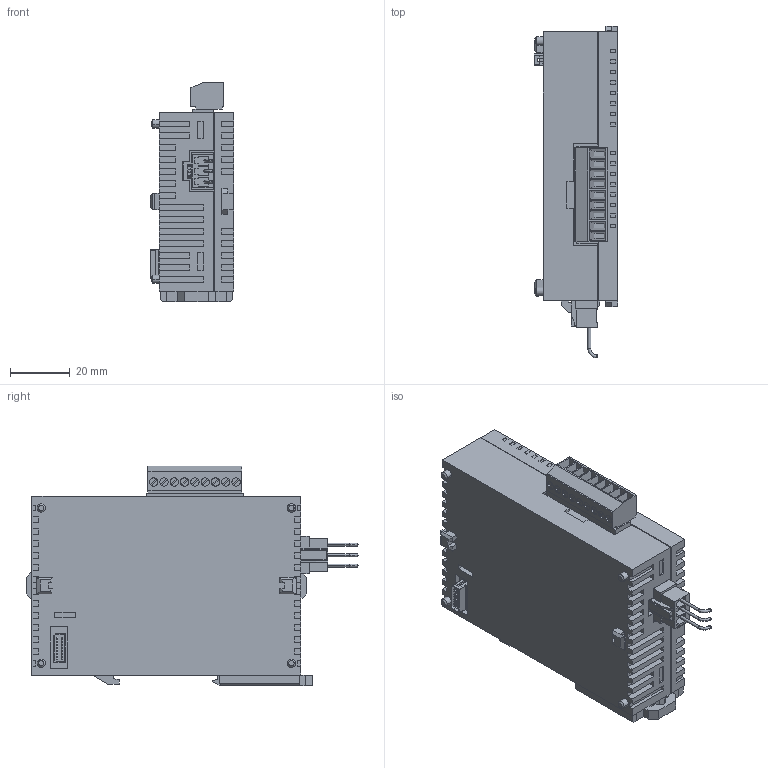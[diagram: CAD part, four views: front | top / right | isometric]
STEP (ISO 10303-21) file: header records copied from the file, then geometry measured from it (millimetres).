
FILE_DESCRIPTION (( 'STEP AP203' ), '1' );
FILE_NAME ('afp0re8yrs.STEP', '2013-06-28T05:28:16', ( 'sunx' ), ( 'sunx' ), 'SwSTEP 2.0', 'SolidWorks 2010', '' );
FILE_SCHEMA (( 'CONFIG_CONTROL_DESIGN' ));
Length unit declared in the file: millimetre
Products named in the file (1): afp0re8yrs
Bounding box: 28 x 111.2 x 73.45 mm (x, y, z)
Volume: 137937.4 mm3; surface area: 25669.3 mm2
Topology: 1 solids, 1 shells, 896 faces, 2393 edges, 1576 vertices
Faces by surface type: plane 803, cylinder 63, bspline 16, cone 8, torus 6
Entity records: 27702 total; most frequent: CARTESIAN_POINT 5106, ORIENTED_EDGE 4786, DIRECTION 4339, EDGE_CURVE 2393, VECTOR 2209, LINE 2209, VERTEX_POINT 1576, AXIS2_PLACEMENT_3D 1065
